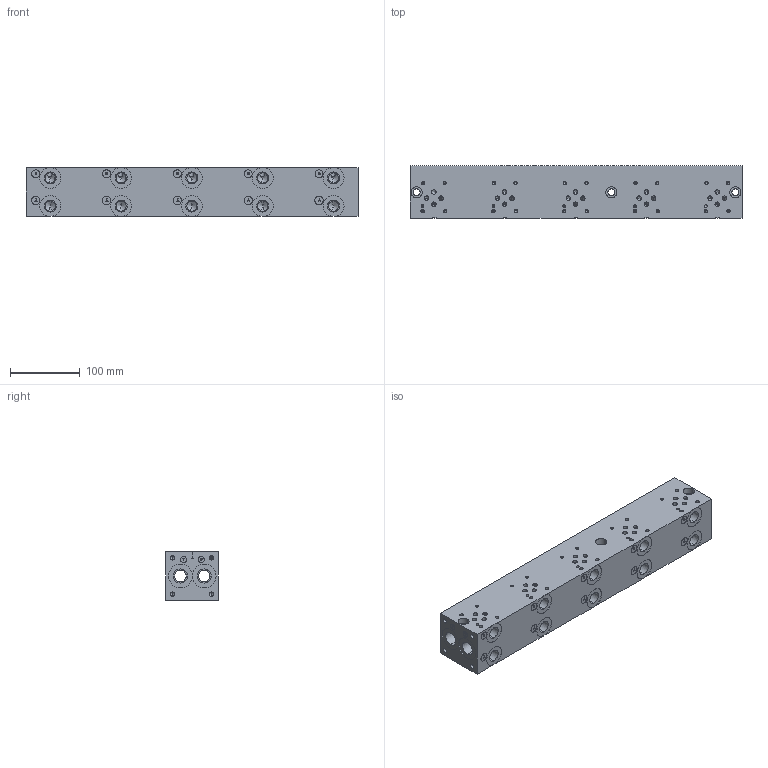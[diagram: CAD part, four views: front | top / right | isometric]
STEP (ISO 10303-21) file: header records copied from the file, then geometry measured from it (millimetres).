
FILE_DESCRIPTION (( 'STEP AP203' ), '1' );
FILE_NAME ('BM-ASP03S4-05-1_Z.STEP', '2015-01-06T15:43:23', ( '' ), ( '' ), 'SwSTEP 2.0', 'SolidWorks 2014', '' );
FILE_SCHEMA (( 'CONFIG_CONTROL_DESIGN' ));
Length unit declared in the file: inch
Products named in the file (1): BM-ASP03S4-05-1_Z
Bounding box: 476.25 x 74.93 x 69.85 mm (x, y, z)
Volume: 2174560.7 mm3; surface area: 236993.6 mm2
Topology: 1 solids, 1 shells, 693 faces, 1772 edges, 1088 vertices
Faces by surface type: cylinder 278, plane 237, cone 121, bspline 57
Entity records: 25015 total; most frequent: CARTESIAN_POINT 8785, ORIENTED_EDGE 3332, DIRECTION 3235, EDGE_CURVE 1666, AXIS2_PLACEMENT_3D 1176, VERTEX_POINT 1088, LINE 883, VECTOR 883
